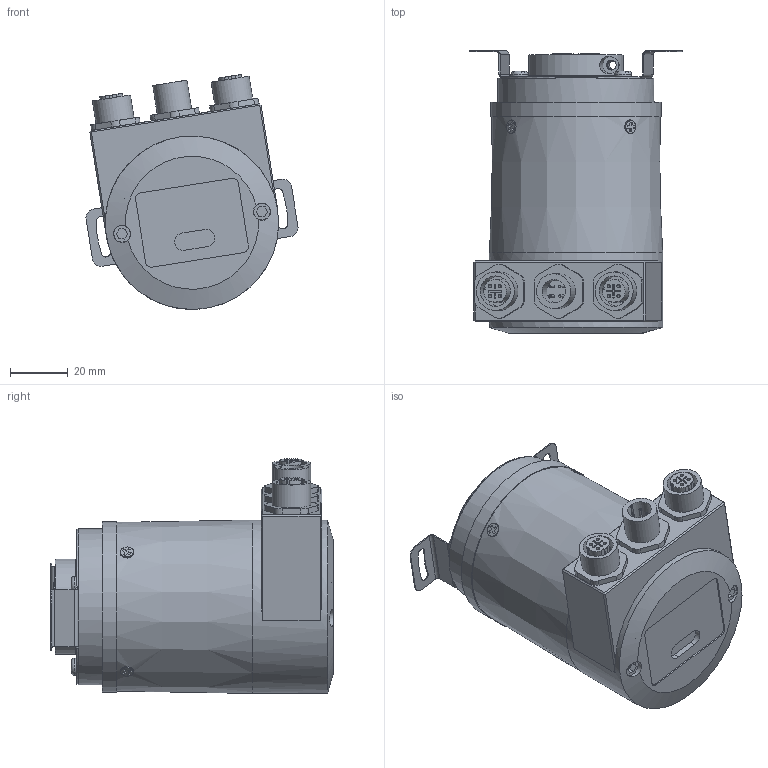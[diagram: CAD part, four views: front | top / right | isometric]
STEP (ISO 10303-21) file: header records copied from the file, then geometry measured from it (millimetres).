
FILE_DESCRIPTION(/* description */ ('Unknown'),/* implementation_level */ '2;1');
FILE_NAME(/* name */ 'AAM_58_FR_PFN-ETC',/* time_stamp */ '2022-09-07T12:35:54+02:00',/* author */ ('Unknown'),/* organization */ ('Unknown'),/* preprocessor_version */ 'ST-DEVELOPER v16.7',/* originating_system */ 'DEX',/* authorisation */ $);
FILE_SCHEMA (('AUTOMOTIVE_DESIGN {1 0 10303 214 3 1 1}'));
Length unit declared in the file: millimetre
Products named in the file (1): AAM_58_FR_PFN-ETC
Bounding box: 73.38 x 97.8 x 81.29 mm (x, y, z)
Volume: 108475 mm3; surface area: 65823.3 mm2
Topology: 2 solids, 19 shells, 774 faces, 1966 edges, 1307 vertices
Faces by surface type: plane 420, cylinder 297, cone 46, bspline 8, torus 3
Full cylindrical faces by diameter (mm): 0.8 x4, 1.2 x8, 1.6 x2, 2.05 x16, 2.5 x6, 2.532 x1, 3 x9, 3.2 x3, 3.26 x4, 3.4 x1, 3.5 x5, 5.7 x2, 5.8 x3, 6 x3, 8 x2, 10.5 x2, 12 x4, 13.3 x2, 14 x4, 15 x2, 15.8 x1, 16.6 x1, 17 x4, 18 x1, 18.4 x1, 18.6 x1, 19 x1, 19.724 x1, 19.98 x1, 20 x1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
Entity records: 22776 total; most frequent: CARTESIAN_POINT 4662, DIRECTION 3794, ORIENTED_EDGE 3456, EDGE_CURVE 1728, AXIS2_PLACEMENT_3D 1410, VERTEX_POINT 1241, FACE_BOUND 1081, EDGE_LOOP 1064
